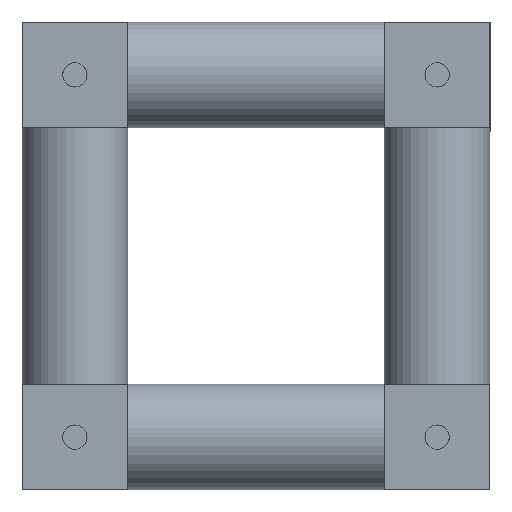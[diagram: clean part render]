
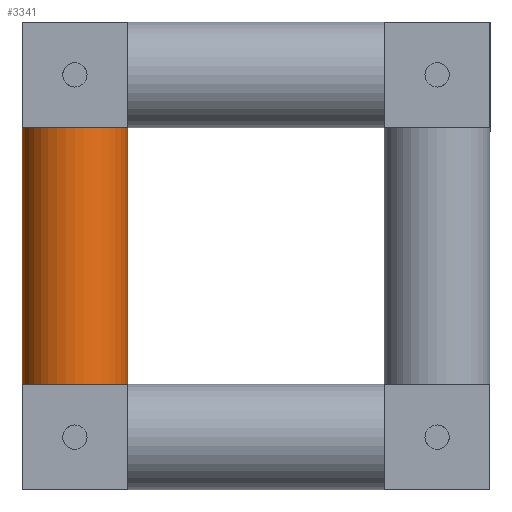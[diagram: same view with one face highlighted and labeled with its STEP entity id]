
A CAD part, front view. The second image highlights one B-rep face of the part: STEP entity #3341.
In plain terms, the highlighted cylindrical face has radius 30 mm (diameter 60 mm), a full revolution.
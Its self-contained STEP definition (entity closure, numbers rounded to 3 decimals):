
#358=FACE_BOUND('',#805,.T.);
#359=FACE_BOUND('',#806,.T.);
#452=B_SPLINE_CURVE_WITH_KNOTS('',3,(#5385,#5386,#5387,#5388,#5389,#5390,
#5391,#5392,#5393,#5394,#5395,#5396,#5397,#5398,#5399,#5400,#5401,#5402,
#5403,#5404,#5405,#5406,#5407,#5408,#5409,#5410,#5411,#5412,#5413,#5414,
#5415),.UNSPECIFIED.,.F.,.F.,(4,3,2,2,2,2,2,2,2,2,2,2,2,2,4),(9.236,
9.464,9.788,10.112,10.76,11.338,
11.627,11.916,12.205,12.494,13.072,
13.72,14.043,14.367,14.595),
 .UNSPECIFIED.);
#462=CYLINDRICAL_SURFACE('',#3647,30.);
#576=FACE_OUTER_BOUND('',#804,.T.);
#804=EDGE_LOOP('',(#2196,#2197,#2198,#2199));
#805=EDGE_LOOP('',(#2200,#2201));
#806=EDGE_LOOP('',(#2202,#2203,#2204,#2205));
#1108=CIRCLE('',#3648,30.);
#1109=CIRCLE('',#3649,30.);
#1110=CIRCLE('',#3650,30.);
#1111=CIRCLE('',#3651,30.);
#1112=CIRCLE('',#3652,30.);
#1113=CIRCLE('',#3653,30.);
#1114=CIRCLE('',#3654,30.);
#1115=CIRCLE('',#3655,30.);
#1221=ELLIPSE('',#3562,97.082,30.);
#1335=VERTEX_POINT('',#5383);
#1336=VERTEX_POINT('',#5384);
#1342=VERTEX_POINT('',#5464);
#1396=VERTEX_POINT('',#5629);
#1408=VERTEX_POINT('',#5665);
#1409=VERTEX_POINT('',#5667);
#1410=VERTEX_POINT('',#5669);
#1411=VERTEX_POINT('',#5672);
#1412=VERTEX_POINT('',#5674);
#1413=VERTEX_POINT('',#5676);
#1612=EDGE_CURVE('',#1335,#1336,#452,.T.);
#1617=EDGE_CURVE('',#1336,#1335,#1221,.T.);
#1716=EDGE_CURVE('',#1396,#1408,#1108,.T.);
#1717=EDGE_CURVE('',#1409,#1396,#1109,.T.);
#1718=EDGE_CURVE('',#1410,#1409,#1110,.T.);
#1719=EDGE_CURVE('',#1408,#1410,#1111,.T.);
#1720=EDGE_CURVE('',#1411,#1342,#1112,.T.);
#1721=EDGE_CURVE('',#1412,#1411,#1113,.T.);
#1722=EDGE_CURVE('',#1413,#1412,#1114,.T.);
#1723=EDGE_CURVE('',#1342,#1413,#1115,.T.);
#2196=ORIENTED_EDGE('',*,*,#1716,.F.);
#2197=ORIENTED_EDGE('',*,*,#1717,.F.);
#2198=ORIENTED_EDGE('',*,*,#1718,.F.);
#2199=ORIENTED_EDGE('',*,*,#1719,.F.);
#2200=ORIENTED_EDGE('',*,*,#1612,.T.);
#2201=ORIENTED_EDGE('',*,*,#1617,.T.);
#2202=ORIENTED_EDGE('',*,*,#1720,.F.);
#2203=ORIENTED_EDGE('',*,*,#1721,.F.);
#2204=ORIENTED_EDGE('',*,*,#1722,.F.);
#2205=ORIENTED_EDGE('',*,*,#1723,.F.);
#3341=ADVANCED_FACE('',(#576,#358,#359),#462,.T.);
#3562=AXIS2_PLACEMENT_3D('',#5453,#4087,#4088);
#3647=AXIS2_PLACEMENT_3D('',#5664,#4313,#4314);
#3648=AXIS2_PLACEMENT_3D('',#5666,#4315,#4316);
#3649=AXIS2_PLACEMENT_3D('',#5668,#4317,#4318);
#3650=AXIS2_PLACEMENT_3D('',#5670,#4319,#4320);
#3651=AXIS2_PLACEMENT_3D('',#5671,#4321,#4322);
#3652=AXIS2_PLACEMENT_3D('',#5673,#4323,#4324);
#3653=AXIS2_PLACEMENT_3D('',#5675,#4325,#4326);
#3654=AXIS2_PLACEMENT_3D('',#5677,#4327,#4328);
#3655=AXIS2_PLACEMENT_3D('',#5678,#4329,#4330);
#4087=DIRECTION('center_axis',(0.,-0.951,-0.309));
#4088=DIRECTION('ref_axis',(0.,-0.309,0.951));
#4313=DIRECTION('center_axis',(0.,0.,
1.));
#4314=DIRECTION('ref_axis',(0.578,-0.816,0.));
#4315=DIRECTION('center_axis',(0.,0.,
1.));
#4316=DIRECTION('ref_axis',(0.578,-0.816,0.));
#4317=DIRECTION('center_axis',(0.,0.,
1.));
#4318=DIRECTION('ref_axis',(0.578,-0.816,0.));
#4319=DIRECTION('center_axis',(0.,0.,
1.));
#4320=DIRECTION('ref_axis',(0.578,-0.816,0.));
#4321=DIRECTION('center_axis',(0.,0.,
1.));
#4322=DIRECTION('ref_axis',(0.578,-0.816,0.));
#4323=DIRECTION('center_axis',(0.,0.,
-1.));
#4324=DIRECTION('ref_axis',(0.578,-0.816,0.));
#4325=DIRECTION('center_axis',(0.,0.,
-1.));
#4326=DIRECTION('ref_axis',(0.578,-0.816,0.));
#4327=DIRECTION('center_axis',(0.,0.,
-1.));
#4328=DIRECTION('ref_axis',(0.578,-0.816,0.));
#4329=DIRECTION('center_axis',(0.,0.,
-1.));
#4330=DIRECTION('ref_axis',(0.578,-0.816,0.));
#5383=CARTESIAN_POINT('',(14.832,-271.423,-144.963));
#5384=CARTESIAN_POINT('',(-14.832,-271.423,-144.963));
#5385=CARTESIAN_POINT('Ctrl Pts',(14.832,-271.423,-144.963));
#5386=CARTESIAN_POINT('Ctrl Pts',(14.947,-271.488,-144.185));
#5387=CARTESIAN_POINT('Ctrl Pts',(15.,-271.519,-143.405));
#5388=CARTESIAN_POINT('Ctrl Pts',(15.,-271.519,-142.644));
#5389=CARTESIAN_POINT('Ctrl Pts',(15.,-271.519,-141.564));
#5390=CARTESIAN_POINT('Ctrl Pts',(14.893,-271.457,-140.456));
#5391=CARTESIAN_POINT('Ctrl Pts',(14.471,-271.22,-138.256));
#5392=CARTESIAN_POINT('Ctrl Pts',(14.156,-271.046,-137.164));
#5393=CARTESIAN_POINT('Ctrl Pts',(12.931,-270.415,-134.009));
#5394=CARTESIAN_POINT('Ctrl Pts',(11.735,-269.85,-132.07));
#5395=CARTESIAN_POINT('Ctrl Pts',(9.091,-268.88,-129.111));
#5396=CARTESIAN_POINT('Ctrl Pts',(7.502,-268.396,-127.82));
#5397=CARTESIAN_POINT('Ctrl Pts',(4.817,-267.875,-126.488));
#5398=CARTESIAN_POINT('Ctrl Pts',(3.872,-267.735,-126.142));
#5399=CARTESIAN_POINT('Ctrl Pts',(1.946,-267.548,-125.68));
#5400=CARTESIAN_POINT('Ctrl Pts',(0.963,-267.5,-125.566));
#5401=CARTESIAN_POINT('Ctrl Pts',(-0.963,-267.5,-125.566));
#5402=CARTESIAN_POINT('Ctrl Pts',(-1.946,-267.548,-125.68));
#5403=CARTESIAN_POINT('Ctrl Pts',(-3.872,-267.735,-126.142));
#5404=CARTESIAN_POINT('Ctrl Pts',(-4.817,-267.875,-126.488));
#5405=CARTESIAN_POINT('Ctrl Pts',(-7.502,-268.396,-127.82));
#5406=CARTESIAN_POINT('Ctrl Pts',(-9.091,-268.88,-129.111));
#5407=CARTESIAN_POINT('Ctrl Pts',(-11.735,-269.85,-132.07));
#5408=CARTESIAN_POINT('Ctrl Pts',(-12.931,-270.415,-134.009));
#5409=CARTESIAN_POINT('Ctrl Pts',(-14.156,-271.046,-137.164));
#5410=CARTESIAN_POINT('Ctrl Pts',(-14.471,-271.22,-138.256));
#5411=CARTESIAN_POINT('Ctrl Pts',(-14.893,-271.457,-140.456));
#5412=CARTESIAN_POINT('Ctrl Pts',(-15.,-271.519,-141.564));
#5413=CARTESIAN_POINT('Ctrl Pts',(-15.,-271.519,-143.405));
#5414=CARTESIAN_POINT('Ctrl Pts',(-14.947,-271.488,-144.185));
#5415=CARTESIAN_POINT('Ctrl Pts',(-14.832,-271.423,-144.963));
#5453=CARTESIAN_POINT('Origin',(0.,-297.5,-64.707));
#5464=CARTESIAN_POINT('',(0.,-267.5,-175.5));
#5629=CARTESIAN_POINT('',(0.,-267.5,-30.));
#5664=CARTESIAN_POINT('Origin',(0.,-297.5,-175.5));
#5665=CARTESIAN_POINT('',(-30.,-297.5,-30.));
#5666=CARTESIAN_POINT('Origin',(0.,-297.5,-30.));
#5667=CARTESIAN_POINT('',(30.,-297.5,-30.));
#5668=CARTESIAN_POINT('Origin',(0.,-297.5,-30.));
#5669=CARTESIAN_POINT('',(0.,-327.5,-30.));
#5670=CARTESIAN_POINT('Origin',(0.,-297.5,-30.));
#5671=CARTESIAN_POINT('Origin',(0.,-297.5,-30.));
#5672=CARTESIAN_POINT('',(-30.,-297.5,-175.5));
#5673=CARTESIAN_POINT('Origin',(0.,-297.5,-175.5));
#5674=CARTESIAN_POINT('',(0.,-327.5,-175.5));
#5675=CARTESIAN_POINT('Origin',(0.,-297.5,-175.5));
#5676=CARTESIAN_POINT('',(30.,-297.5,-175.5));
#5677=CARTESIAN_POINT('Origin',(0.,-297.5,-175.5));
#5678=CARTESIAN_POINT('Origin',(0.,-297.5,-175.5));
